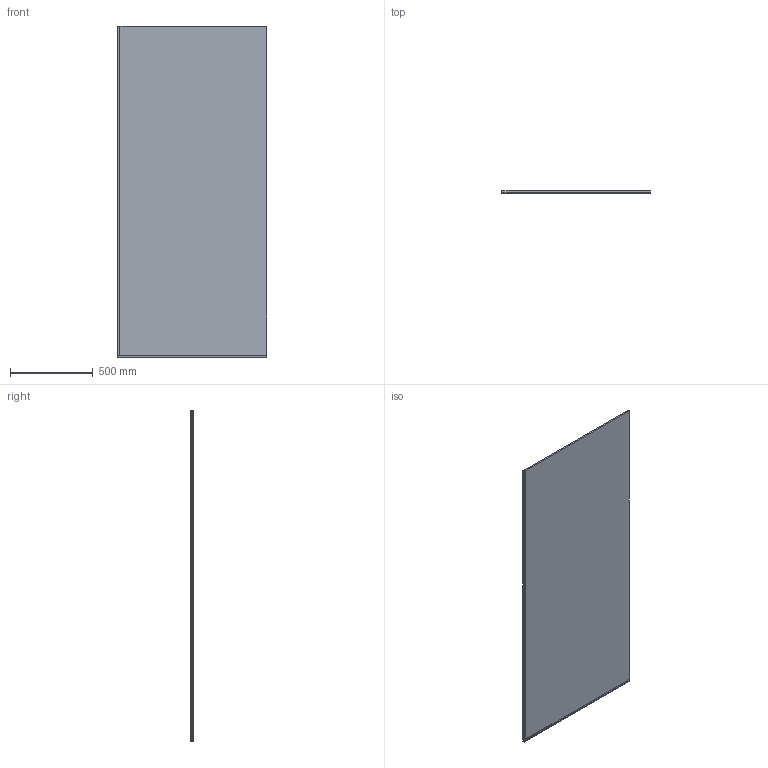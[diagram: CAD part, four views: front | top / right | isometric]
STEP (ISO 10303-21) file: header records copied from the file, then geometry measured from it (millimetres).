
FILE_DESCRIPTION(/* description */ ('Стенка задняя'),/* implementation_level */ '2;1');
FILE_NAME(/* name */ 'D:\!\!\GLASS LINE GK-010\GLASS LINE GK-010 левая модель\GLASS LINE GK-010 ЛЕВАЯ-3D.stp',/* time_stamp */ '2019-12-02T17:34:30+03:00',/* author */ ('User'),/* organization */ (''),/* preprocessor_version */ 'ST-DEVELOPER v15.2',/* originating_system */ 'Autodesk Inventor 2014',/* authorisation */ '');
FILE_SCHEMA (('AUTOMOTIVE_DESIGN { 1 0 10303 214 3 1 1 }'));
Length unit declared in the file: millimetre
Products named in the file (6): Стекло.02 (22) TR; UP008K; Профиль 13х13 (
стекло 10 мм); UP008K.01; Профиль 13х13 (
стекло 10 мм)_2; GLASS LINE GK-010 ЛЕВАЯ-3D
Bounding box: 900 x 13 x 2000 mm (x, y, z)
Volume: 18091885.5 mm3; surface area: 3909193.4 mm2
Topology: 5 solids, 5 shells, 44 faces, 102 edges, 68 vertices
Faces by surface type: plane 38, cylinder 6
Full cylindrical faces by diameter (mm): 6 x6
Entity records: 1373 total; most frequent: CARTESIAN_POINT 219, DIRECTION 218, ORIENTED_EDGE 192, EDGE_CURVE 96, LINE 84, VECTOR 84, VERTEX_POINT 68, AXIS2_PLACEMENT_3D 67
